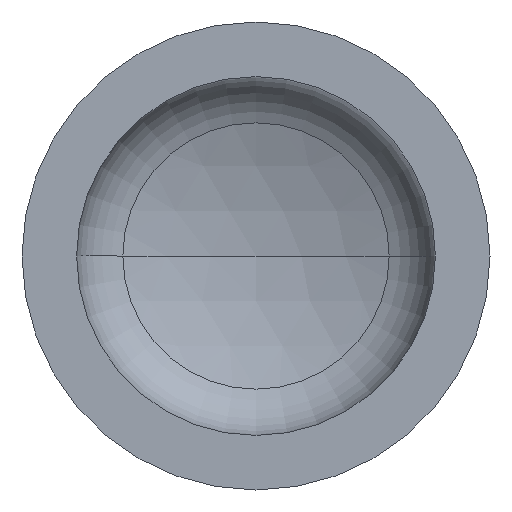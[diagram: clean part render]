
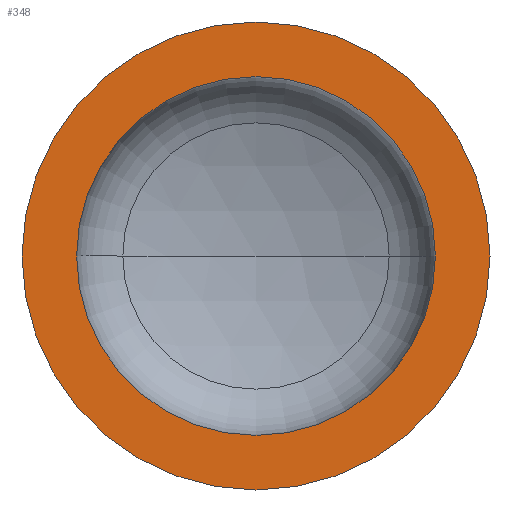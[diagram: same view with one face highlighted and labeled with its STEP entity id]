
A CAD part, front view. The second image highlights one B-rep face of the part: STEP entity #348.
In plain terms, the highlighted planar face has unit normal (0, -1, 0).
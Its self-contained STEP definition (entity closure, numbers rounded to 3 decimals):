
#1 = EDGE_LOOP ( 'NONE', ( #93, #40 ) ) ;
#4 = AXIS2_PLACEMENT_3D ( 'NONE', #35, #236, #167 ) ;
#18 = AXIS2_PLACEMENT_3D ( 'NONE', #211, #332, #335 ) ;
#26 = VERTEX_POINT ( 'NONE', #292 ) ;
#30 = ORIENTED_EDGE ( 'NONE', *, *, #105, .F. ) ;
#35 = CARTESIAN_POINT ( 'NONE',  ( -300., 0., 0. ) ) ;
#36 = VERTEX_POINT ( 'NONE', #368 ) ;
#40 = ORIENTED_EDGE ( 'NONE', *, *, #103, .T. ) ;
#55 = VERTEX_POINT ( 'NONE', #286 ) ;
#56 = CARTESIAN_POINT ( 'NONE',  ( 300., 0., 0. ) ) ;
#61 = EDGE_LOOP ( 'NONE', ( #30, #137 ) ) ;
#70 = AXIS2_PLACEMENT_3D ( 'NONE', #313, #311, #310 ) ;
#73 = AXIS2_PLACEMENT_3D ( 'NONE', #379, #372, #377 ) ;
#75 = DIRECTION ( 'NONE',  ( 1., 0., 0. ) ) ;
#93 = ORIENTED_EDGE ( 'NONE', *, *, #375, .T. ) ;
#103 = EDGE_CURVE ( 'NONE', #55, #282, #210, .T. ) ;
#105 = EDGE_CURVE ( 'NONE', #26, #36, #392, .T. ) ;
#137 = ORIENTED_EDGE ( 'NONE', *, *, #347, .F. ) ;
#167 = DIRECTION ( 'NONE',  ( -1., 0., 0. ) ) ;
#210 = CIRCLE ( 'NONE', #73, 300. ) ;
#211 = CARTESIAN_POINT ( 'NONE',  ( 0., 0., 0. ) ) ;
#213 = AXIS2_PLACEMENT_3D ( 'NONE', #367, #225, #75 ) ;
#225 = DIRECTION ( 'NONE',  ( 0., -1., 0. ) ) ;
#231 = CIRCLE ( 'NONE', #18, 230. ) ;
#236 = DIRECTION ( 'NONE',  ( 0., 1., 0. ) ) ;
#244 = PLANE ( 'NONE',  #4 ) ;
#277 = CIRCLE ( 'NONE', #213, 300. ) ;
#282 = VERTEX_POINT ( 'NONE', #56 ) ;
#286 = CARTESIAN_POINT ( 'NONE',  ( -300., 0., 0. ) ) ;
#292 = CARTESIAN_POINT ( 'NONE',  ( 230., 0., 0. ) ) ;
#310 = DIRECTION ( 'NONE',  ( 1., 0., 0. ) ) ;
#311 = DIRECTION ( 'NONE',  ( 0., -1., 0. ) ) ;
#313 = CARTESIAN_POINT ( 'NONE',  ( 0., 0., 0. ) ) ;
#332 = DIRECTION ( 'NONE',  ( 0., -1., 0. ) ) ;
#335 = DIRECTION ( 'NONE',  ( 1., 0., 0. ) ) ;
#347 = EDGE_CURVE ( 'NONE', #36, #26, #231, .T. ) ;
#348 = ADVANCED_FACE ( 'NONE', ( #365, #353 ), #244, .F. ) ;
#353 = FACE_OUTER_BOUND ( 'NONE', #1, .T. ) ;
#365 = FACE_BOUND ( 'NONE', #61, .T. ) ;
#367 = CARTESIAN_POINT ( 'NONE',  ( 0., 0., 0. ) ) ;
#368 = CARTESIAN_POINT ( 'NONE',  ( -230., 0., 0. ) ) ;
#372 = DIRECTION ( 'NONE',  ( 0., -1., 0. ) ) ;
#375 = EDGE_CURVE ( 'NONE', #282, #55, #277, .T. ) ;
#377 = DIRECTION ( 'NONE',  ( 1., 0., 0. ) ) ;
#379 = CARTESIAN_POINT ( 'NONE',  ( 0., 0., 0. ) ) ;
#392 = CIRCLE ( 'NONE', #70, 230. ) ;
